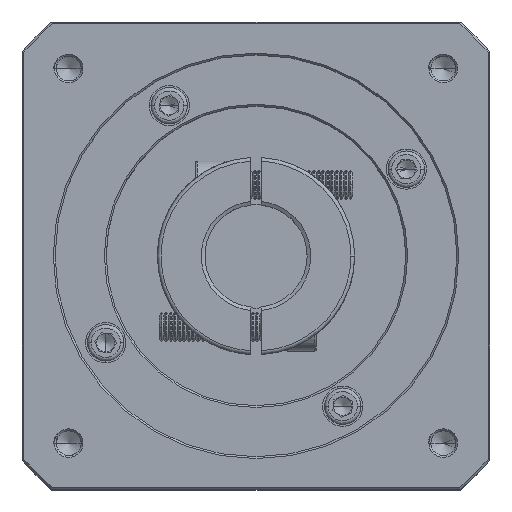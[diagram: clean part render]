
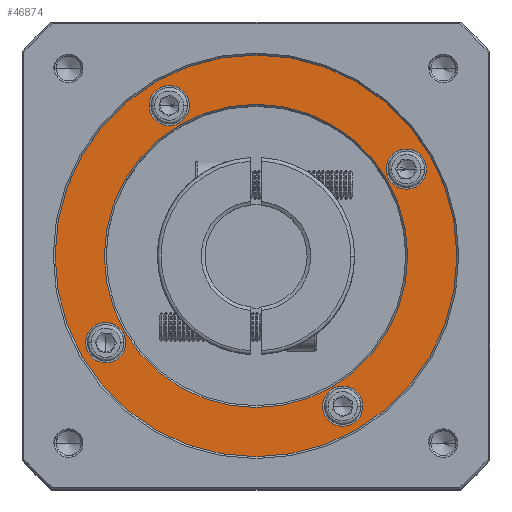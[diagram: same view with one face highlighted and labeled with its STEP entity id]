
A CAD part, top view. The second image highlights one B-rep face of the part: STEP entity #46874.
In plain terms, the highlighted planar face has unit normal (0, 0, 1).
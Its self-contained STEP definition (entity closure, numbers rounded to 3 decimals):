
#9 = DIRECTION ( 'NONE',  ( 0., 0., -1. ) ) ;
#1289 = AXIS2_PLACEMENT_3D ( 'NONE', #105194, #26052, #44537 ) ;
#2100 = AXIS2_PLACEMENT_3D ( 'NONE', #47402, #83300, #109168 ) ;
#2261 = ORIENTED_EDGE ( 'NONE', *, *, #75920, .T. ) ;
#2985 = CARTESIAN_POINT ( 'NONE',  ( 106.979, 140.387, -4.938 ) ) ;
#3742 = DIRECTION ( 'NONE',  ( 0., 0., 1. ) ) ;
#5590 = ORIENTED_EDGE ( 'NONE', *, *, #20291, .T. ) ;
#7277 = EDGE_LOOP ( 'NONE', ( #50618, #39638 ) ) ;
#7747 = AXIS2_PLACEMENT_3D ( 'NONE', #98496, #9, #97710 ) ;
#12177 = ORIENTED_EDGE ( 'NONE', *, *, #76037, .T. ) ;
#12667 = VERTEX_POINT ( 'NONE', #80935 ) ;
#14369 = FACE_OUTER_BOUND ( 'NONE', #25880, .T. ) ;
#14381 = CARTESIAN_POINT ( 'NONE',  ( 42.093, 157.773, -4.938 ) ) ;
#15335 = CARTESIAN_POINT ( 'NONE',  ( 42.093, 157.773, -4.938 ) ) ;
#16195 = DIRECTION ( 'NONE',  ( 0., 0., -1. ) ) ;
#19496 = CARTESIAN_POINT ( 'NONE',  ( 107.343, 116.637, -4.938 ) ) ;
#20291 = EDGE_CURVE ( 'NONE', #70836, #35761, #62244, .T. ) ;
#20396 = DIRECTION ( 'NONE',  ( 0., 0., -1. ) ) ;
#20471 = DIRECTION ( 'NONE',  ( 0., 0., -1. ) ) ;
#21778 = CARTESIAN_POINT ( 'NONE',  ( 65.843, 116.637, -4.938 ) ) ;
#22206 = CIRCLE ( 'NONE', #1289, 5.5 ) ;
#22795 = DIRECTION ( 'NONE',  ( 0., 0., -1. ) ) ;
#23611 = AXIS2_PLACEMENT_3D ( 'NONE', #92152, #3742, #31980 ) ;
#24281 = EDGE_CURVE ( 'NONE', #35761, #70836, #53517, .T. ) ;
#25880 = EDGE_LOOP ( 'NONE', ( #57008, #12177 ) ) ;
#26052 = DIRECTION ( 'NONE',  ( 0., 0., -1. ) ) ;
#26209 = EDGE_LOOP ( 'NONE', ( #50804, #82034 ) ) ;
#29144 = ORIENTED_EDGE ( 'NONE', *, *, #24281, .T. ) ;
#29343 = DIRECTION ( 'NONE',  ( 1., 0., 0. ) ) ;
#30099 = CARTESIAN_POINT ( 'NONE',  ( 24.707, 92.887, -4.938 ) ) ;
#31525 = EDGE_CURVE ( 'NONE', #40429, #77759, #101029, .T. ) ;
#31980 = DIRECTION ( 'NONE',  ( 1., 0., 0. ) ) ;
#32804 = CIRCLE ( 'NONE', #7747, 5.5 ) ;
#34066 = DIRECTION ( 'NONE',  ( 1., 0., 0. ) ) ;
#34738 = EDGE_LOOP ( 'NONE', ( #5590, #29144 ) ) ;
#34746 = CARTESIAN_POINT ( 'NONE',  ( 106.979, 140.387, -4.938 ) ) ;
#35761 = VERTEX_POINT ( 'NONE', #82895 ) ;
#35885 = CIRCLE ( 'NONE', #85758, 5.5 ) ;
#36236 = DIRECTION ( 'NONE',  ( 1., 0., 0. ) ) ;
#38591 = CARTESIAN_POINT ( 'NONE',  ( 36.593, 157.773, -4.938 ) ) ;
#38951 = CARTESIAN_POINT ( 'NONE',  ( 65.843, 116.637, -4.938 ) ) ;
#39495 = ORIENTED_EDGE ( 'NONE', *, *, #31525, .T. ) ;
#39638 = ORIENTED_EDGE ( 'NONE', *, *, #53107, .T. ) ;
#40429 = VERTEX_POINT ( 'NONE', #113103 ) ;
#40748 = CARTESIAN_POINT ( 'NONE',  ( 10.843, 116.637, -4.938 ) ) ;
#43247 = CARTESIAN_POINT ( 'NONE',  ( 84.093, 75.501, -4.938 ) ) ;
#43893 = EDGE_CURVE ( 'NONE', #77759, #40429, #32804, .T. ) ;
#44038 = DIRECTION ( 'NONE',  ( 0., 0., -1. ) ) ;
#44122 = AXIS2_PLACEMENT_3D ( 'NONE', #30099, #20471, #29343 ) ;
#44537 = DIRECTION ( 'NONE',  ( 1., 0., 0. ) ) ;
#45026 = EDGE_CURVE ( 'NONE', #93166, #55376, #113944, .T. ) ;
#45086 = CARTESIAN_POINT ( 'NONE',  ( 65.843, 116.637, -4.938 ) ) ;
#46026 = AXIS2_PLACEMENT_3D ( 'NONE', #45086, #89085, #36236 ) ;
#46874 = ADVANCED_FACE ( 'NONE', ( #14369, #98678, #75273, #64217, #107000, #69764 ), #74109, .T. ) ;
#47402 = CARTESIAN_POINT ( 'NONE',  ( 65.843, 116.637, -4.938 ) ) ;
#47866 = AXIS2_PLACEMENT_3D ( 'NONE', #21778, #92781, #101296 ) ;
#48109 = EDGE_CURVE ( 'NONE', #73180, #92887, #77485, .T. ) ;
#50618 = ORIENTED_EDGE ( 'NONE', *, *, #105794, .T. ) ;
#50804 = ORIENTED_EDGE ( 'NONE', *, *, #68632, .T. ) ;
#51987 = CIRCLE ( 'NONE', #62091, 5.5 ) ;
#53107 = EDGE_CURVE ( 'NONE', #98267, #88161, #35885, .T. ) ;
#53517 = CIRCLE ( 'NONE', #72091, 41.5 ) ;
#55376 = VERTEX_POINT ( 'NONE', #102862 ) ;
#56039 = AXIS2_PLACEMENT_3D ( 'NONE', #34746, #16195, #86853 ) ;
#57008 = ORIENTED_EDGE ( 'NONE', *, *, #48109, .T. ) ;
#62091 = AXIS2_PLACEMENT_3D ( 'NONE', #15335, #84892, #94127 ) ;
#62244 = CIRCLE ( 'NONE', #47866, 41.5 ) ;
#64206 = CIRCLE ( 'NONE', #92352, 5.5 ) ;
#64217 = FACE_BOUND ( 'NONE', #26209, .T. ) ;
#64902 = DIRECTION ( 'NONE',  ( 1., 0., 0. ) ) ;
#68632 = EDGE_CURVE ( 'NONE', #12667, #105034, #22206, .T. ) ;
#69666 = CARTESIAN_POINT ( 'NONE',  ( 89.593, 75.501, -4.938 ) ) ;
#69764 = FACE_BOUND ( 'NONE', #105925, .T. ) ;
#70836 = VERTEX_POINT ( 'NONE', #19496 ) ;
#72091 = AXIS2_PLACEMENT_3D ( 'NONE', #38951, #22795, #101514 ) ;
#72526 = CARTESIAN_POINT ( 'NONE',  ( 47.593, 157.773, -4.938 ) ) ;
#73180 = VERTEX_POINT ( 'NONE', #111472 ) ;
#74109 = PLANE ( 'NONE',  #2100 ) ;
#75273 = FACE_BOUND ( 'NONE', #113370, .T. ) ;
#75920 = EDGE_CURVE ( 'NONE', #55376, #93166, #64206, .T. ) ;
#76037 = EDGE_CURVE ( 'NONE', #92887, #73180, #84747, .T. ) ;
#77485 = CIRCLE ( 'NONE', #46026, 55. ) ;
#77759 = VERTEX_POINT ( 'NONE', #95982 ) ;
#80935 = CARTESIAN_POINT ( 'NONE',  ( 95.093, 75.501, -4.938 ) ) ;
#82034 = ORIENTED_EDGE ( 'NONE', *, *, #107090, .T. ) ;
#82895 = CARTESIAN_POINT ( 'NONE',  ( 24.343, 116.637, -4.938 ) ) ;
#83300 = DIRECTION ( 'NONE',  ( 0., 0., 1. ) ) ;
#84747 = CIRCLE ( 'NONE', #23611, 55. ) ;
#84892 = DIRECTION ( 'NONE',  ( 0., 0., -1. ) ) ;
#85733 = ORIENTED_EDGE ( 'NONE', *, *, #43893, .T. ) ;
#85758 = AXIS2_PLACEMENT_3D ( 'NONE', #14381, #93894, #102810 ) ;
#86853 = DIRECTION ( 'NONE',  ( 1., 0., 0. ) ) ;
#88161 = VERTEX_POINT ( 'NONE', #72526 ) ;
#89085 = DIRECTION ( 'NONE',  ( 0., 0., 1. ) ) ;
#90016 = ORIENTED_EDGE ( 'NONE', *, *, #45026, .T. ) ;
#92152 = CARTESIAN_POINT ( 'NONE',  ( 65.843, 116.637, -4.938 ) ) ;
#92352 = AXIS2_PLACEMENT_3D ( 'NONE', #2985, #20396, #64902 ) ;
#92781 = DIRECTION ( 'NONE',  ( 0., 0., -1. ) ) ;
#92887 = VERTEX_POINT ( 'NONE', #40748 ) ;
#93166 = VERTEX_POINT ( 'NONE', #104847 ) ;
#93894 = DIRECTION ( 'NONE',  ( 0., 0., -1. ) ) ;
#94127 = DIRECTION ( 'NONE',  ( 1., 0., 0. ) ) ;
#95982 = CARTESIAN_POINT ( 'NONE',  ( 19.207, 92.887, -4.938 ) ) ;
#97710 = DIRECTION ( 'NONE',  ( 1., 0., 0. ) ) ;
#98267 = VERTEX_POINT ( 'NONE', #38591 ) ;
#98496 = CARTESIAN_POINT ( 'NONE',  ( 24.707, 92.887, -4.938 ) ) ;
#98678 = FACE_BOUND ( 'NONE', #34738, .T. ) ;
#101029 = CIRCLE ( 'NONE', #44122, 5.5 ) ;
#101296 = DIRECTION ( 'NONE',  ( 1., 0., 0. ) ) ;
#101514 = DIRECTION ( 'NONE',  ( 1., 0., 0. ) ) ;
#102072 = AXIS2_PLACEMENT_3D ( 'NONE', #69666, #44038, #34066 ) ;
#102810 = DIRECTION ( 'NONE',  ( 1., 0., 0. ) ) ;
#102862 = CARTESIAN_POINT ( 'NONE',  ( 112.479, 140.387, -4.938 ) ) ;
#104847 = CARTESIAN_POINT ( 'NONE',  ( 101.479, 140.387, -4.938 ) ) ;
#105034 = VERTEX_POINT ( 'NONE', #43247 ) ;
#105194 = CARTESIAN_POINT ( 'NONE',  ( 89.593, 75.501, -4.938 ) ) ;
#105368 = CIRCLE ( 'NONE', #102072, 5.5 ) ;
#105794 = EDGE_CURVE ( 'NONE', #88161, #98267, #51987, .T. ) ;
#105925 = EDGE_LOOP ( 'NONE', ( #39495, #85733 ) ) ;
#107000 = FACE_BOUND ( 'NONE', #7277, .T. ) ;
#107090 = EDGE_CURVE ( 'NONE', #105034, #12667, #105368, .T. ) ;
#109168 = DIRECTION ( 'NONE',  ( 1., 0., 0. ) ) ;
#111472 = CARTESIAN_POINT ( 'NONE',  ( 120.843, 116.637, -4.938 ) ) ;
#113103 = CARTESIAN_POINT ( 'NONE',  ( 30.207, 92.887, -4.938 ) ) ;
#113370 = EDGE_LOOP ( 'NONE', ( #2261, #90016 ) ) ;
#113944 = CIRCLE ( 'NONE', #56039, 5.5 ) ;
